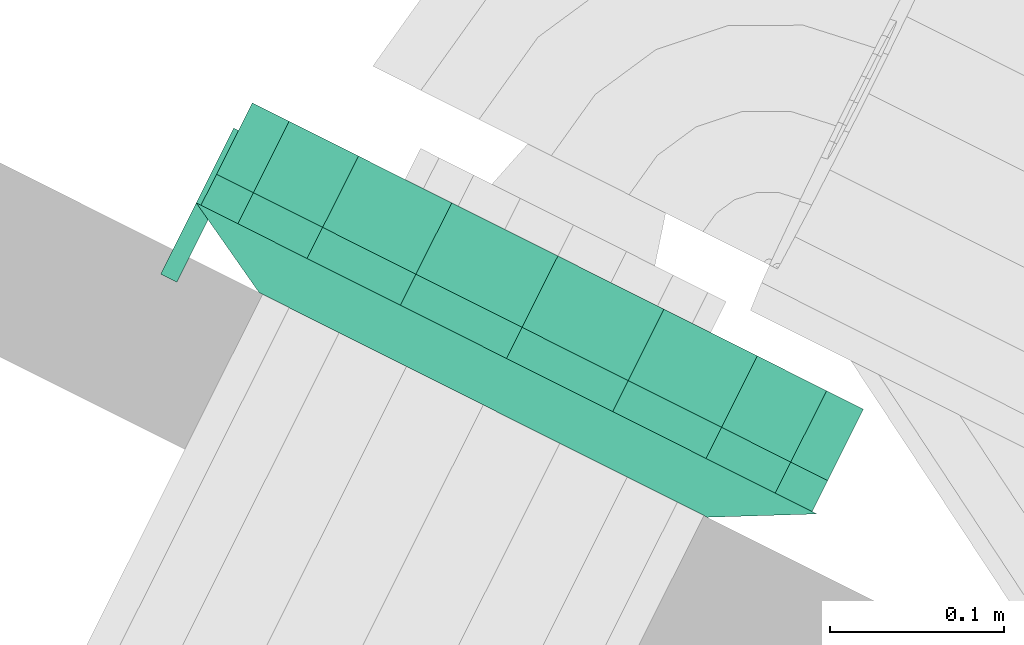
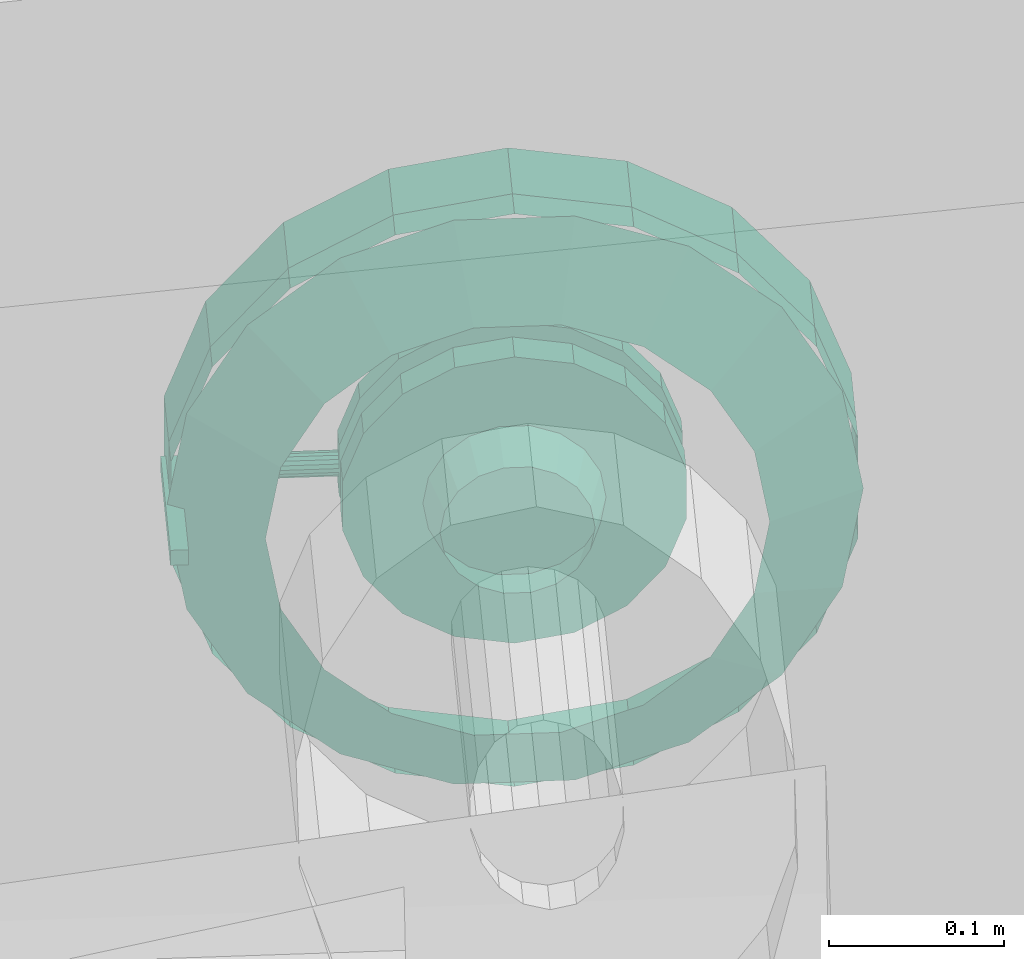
# One storey, part 160 of 206: 1 flow controller, 1 flow fitting.
"""IFC2X3 building model written with IfcOpenShell, lengths in metres."""

from ifc_helpers import new_model, si_unit, derived_unit, direction, frame, origin, place, context, subcontext, project, spatial, face_set, surface_model, source, transform, mapped, material, type_object, type_shapes, element, save


model = new_model("IFC2X3")

# Units and contexts
model_context = context("Model", 3, precision=5.2338327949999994e-05, world=origin(), true_north=direction((0.0, 1.0)))
body_context = subcontext(model_context, "Body", "Model", "MODEL_VIEW")
ifc_project = project(units=[si_unit("LENGTHUNIT", "METRE"), si_unit("AREAUNIT", "SQUARE_METRE"), si_unit("VOLUMEUNIT", "CUBIC_METRE"), si_unit("MASSUNIT", "GRAM", prefix="KILO"), si_unit("PLANEANGLEUNIT", "RADIAN"), derived_unit("THERMALTRANSMITTANCEUNIT", [(si_unit("MASSUNIT", "GRAM", prefix="KILO"), 1), (si_unit("THERMODYNAMICTEMPERATUREUNIT", "KELVIN"), -1), (si_unit("TIMEUNIT", "SECOND"), -3)])], contexts=[model_context])

# Site, building, storey
site_placement = place(None, frame((0.0, 0.0, 0.0), z_axis=(0.0, 0.0, 1.0), x_axis=(0.8939966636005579, -0.4480736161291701, 0.0)))
site = spatial("IfcSite", under=ifc_project, at=site_placement, Name="Default", CompositionType="ELEMENT")
building_placement = place(site_placement, origin())
building = spatial("IfcBuilding", under=site, at=building_placement, CompositionType="ELEMENT")
storey_placement = place(building_placement, origin())
storey = spatial("IfcBuildingStorey", under=building, at=storey_placement, Name="Erdgeschoss", CompositionType="ELEMENT", Elevation=0.0)

# Flow controller
ifc_material = material(Name="IfcSurfaceStyle #9317")
distribution_element_type_1 = type_object("IfcDistributionElementType", Name="Zwischenflanschklappe 338066:Zwischenflanschklappe 338066", material=ifc_material)
shared_shape_1 = source(origin(), body_context, "Body", "SurfaceModel", [
    surface_model("IfcFaceBasedSurfaceModel", [(30.950372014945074, 10.127308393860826, 2.3192500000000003), (30.950372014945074, 10.221458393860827, 2.3192500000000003), (30.950372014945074, 10.221458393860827, 2.30875), (30.950372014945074, 10.127308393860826, 2.30875), (30.93987201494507, 10.221458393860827, 2.30875), (30.93987201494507, 10.127308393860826, 2.30875), (30.93987201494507, 10.221458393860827, 2.3192500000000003), (30.93987201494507, 10.127308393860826, 2.3192500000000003), (31.139872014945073, 10.193208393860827, 2.2614999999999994), (31.12191595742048, 10.193208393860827, 2.2646661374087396), (31.12191595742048, 10.208541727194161, 2.2646661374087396), (31.139872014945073, 10.208541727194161, 2.2614999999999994), (31.10612566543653, 10.193208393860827, 2.273782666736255), (31.10612566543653, 10.208541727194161, 2.273782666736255), (31.09440568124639, 10.193208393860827, 2.2877499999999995), (31.09440568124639, 10.208541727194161, 2.2877499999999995), (31.088169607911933, 10.193208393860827, 2.304883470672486), (31.088169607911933, 10.208541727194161, 2.304883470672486), (31.088169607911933, 10.193208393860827, 2.323116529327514), (31.088169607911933, 10.208541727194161, 2.323116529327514), (31.09440568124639, 10.193208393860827, 2.34025), (31.09440568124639, 10.208541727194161, 2.34025), (31.10612566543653, 10.193208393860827, 2.354217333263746), (31.10612566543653, 10.208541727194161, 2.354217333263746), (31.12191595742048, 10.193208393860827, 2.363333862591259), (31.12191595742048, 10.208541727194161, 2.363333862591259), (31.139872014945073, 10.193208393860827, 2.3665), (31.139872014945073, 10.208541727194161, 2.3665), (31.157828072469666, 10.193208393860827, 2.3633338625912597), (31.157828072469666, 10.208541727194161, 2.3633338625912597), (31.173618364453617, 10.193208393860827, 2.354217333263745), (31.173618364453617, 10.208541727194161, 2.354217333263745), (31.185338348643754, 10.193208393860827, 2.340249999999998), (31.185338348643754, 10.208541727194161, 2.340249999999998), (31.191574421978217, 10.193208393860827, 2.3231165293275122), (31.191574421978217, 10.208541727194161, 2.3231165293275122), (31.191574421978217, 10.193208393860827, 2.304883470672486), (31.191574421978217, 10.208541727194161, 2.304883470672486), (31.185338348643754, 10.193208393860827, 2.2877500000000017), (31.185338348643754, 10.208541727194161, 2.2877500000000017), (31.173618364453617, 10.193208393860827, 2.2737826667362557), (31.173618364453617, 10.208541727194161, 2.2737826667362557), (31.157828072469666, 10.193208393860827, 2.264666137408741), (31.157828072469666, 10.208541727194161, 2.264666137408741), (31.139872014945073, 10.193208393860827, 2.314), (31.139872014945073, 10.208541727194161, 2.314), (31.139872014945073, 10.208541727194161, 2.214), (31.105670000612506, 10.208541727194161, 2.2200307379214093), (31.105670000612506, 10.223875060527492, 2.2200307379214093), (31.139872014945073, 10.223875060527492, 2.214), (31.075593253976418, 10.208541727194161, 2.2373955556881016), (31.075593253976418, 10.223875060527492, 2.2373955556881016), (31.05326947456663, 10.208541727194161, 2.264), (31.05326947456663, 10.223875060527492, 2.264), (31.04139123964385, 10.208541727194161, 2.296635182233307), (31.04139123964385, 10.223875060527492, 2.296635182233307), (31.04139123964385, 10.208541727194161, 2.3313648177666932), (31.04139123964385, 10.223875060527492, 2.3313648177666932), (31.05326947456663, 10.208541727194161, 2.364), (31.05326947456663, 10.223875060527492, 2.364), (31.075593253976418, 10.208541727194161, 2.3906044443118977), (31.075593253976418, 10.223875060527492, 2.3906044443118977), (31.105670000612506, 10.208541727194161, 2.4079692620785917), (31.105670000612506, 10.223875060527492, 2.4079692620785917), (31.139872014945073, 10.208541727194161, 2.414), (31.139872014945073, 10.223875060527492, 2.414), (31.17407402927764, 10.208541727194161, 2.407969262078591), (31.17407402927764, 10.223875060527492, 2.407969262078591), (31.204150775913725, 10.208541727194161, 2.3906044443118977), (31.204150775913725, 10.223875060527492, 2.3906044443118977), (31.22647455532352, 10.208541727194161, 2.3639999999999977), (31.22647455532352, 10.223875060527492, 2.3639999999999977), (31.238352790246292, 10.208541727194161, 2.331364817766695), (31.238352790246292, 10.223875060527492, 2.331364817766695), (31.238352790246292, 10.208541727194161, 2.296635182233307), (31.238352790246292, 10.223875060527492, 2.296635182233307), (31.22647455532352, 10.208541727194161, 2.264000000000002), (31.22647455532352, 10.223875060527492, 2.264000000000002), (31.204150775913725, 10.208541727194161, 2.2373955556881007), (31.204150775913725, 10.223875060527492, 2.2373955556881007), (31.17407402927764, 10.208541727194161, 2.2200307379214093), (31.17407402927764, 10.223875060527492, 2.2200307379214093), (31.139872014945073, 10.22387506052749, 2.314), (31.139872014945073, 10.223875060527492, 2.2614999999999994), (31.12191595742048, 10.223875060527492, 2.2646661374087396), (31.12191595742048, 10.239208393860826, 2.2646661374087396), (31.139872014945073, 10.239208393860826, 2.2614999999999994), (31.10612566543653, 10.223875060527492, 2.273782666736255), (31.10612566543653, 10.239208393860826, 2.273782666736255), (31.09440568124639, 10.223875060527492, 2.2877499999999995), (31.09440568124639, 10.239208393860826, 2.2877499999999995), (31.088169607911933, 10.223875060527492, 2.304883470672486), (31.088169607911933, 10.239208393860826, 2.304883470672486), (31.088169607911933, 10.223875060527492, 2.323116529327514), (31.088169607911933, 10.239208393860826, 2.323116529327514), (31.09440568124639, 10.223875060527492, 2.34025), (31.09440568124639, 10.239208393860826, 2.34025), (31.10612566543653, 10.223875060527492, 2.354217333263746), (31.10612566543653, 10.239208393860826, 2.354217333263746), (31.12191595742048, 10.223875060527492, 2.363333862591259), (31.12191595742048, 10.239208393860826, 2.363333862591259), (31.139872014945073, 10.223875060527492, 2.3665), (31.139872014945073, 10.239208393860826, 2.3665), (31.157828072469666, 10.223875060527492, 2.3633338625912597), (31.157828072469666, 10.239208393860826, 2.3633338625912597), (31.173618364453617, 10.223875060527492, 2.354217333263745), (31.173618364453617, 10.239208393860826, 2.354217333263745), (31.185338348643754, 10.223875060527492, 2.340249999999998), (31.185338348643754, 10.239208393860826, 2.340249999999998), (31.191574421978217, 10.223875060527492, 2.3231165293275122), (31.191574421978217, 10.239208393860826, 2.3231165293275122), (31.191574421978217, 10.223875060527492, 2.304883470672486), (31.191574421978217, 10.239208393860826, 2.304883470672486), (31.185338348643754, 10.223875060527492, 2.2877500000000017), (31.185338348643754, 10.239208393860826, 2.2877500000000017), (31.173618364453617, 10.223875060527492, 2.2737826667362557), (31.173618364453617, 10.239208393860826, 2.2737826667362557), (31.157828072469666, 10.223875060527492, 2.264666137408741), (31.157828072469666, 10.239208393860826, 2.264666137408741), (31.139872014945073, 10.239208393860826, 2.314), (31.139872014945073, 10.216208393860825, 2.3063333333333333), (31.139872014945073, 10.213586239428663, 2.306795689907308), (30.99512201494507, 10.213586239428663, 2.306795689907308), (30.99512201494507, 10.216208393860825, 2.3063333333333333), (31.139872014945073, 10.211280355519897, 2.3081269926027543), (30.99512201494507, 10.211280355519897, 2.3081269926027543), (31.139872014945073, 10.209568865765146, 2.3101666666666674), (30.99512201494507, 10.209568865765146, 2.3101666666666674), (31.139872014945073, 10.208658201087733, 2.3126686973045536), (30.99512201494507, 10.208658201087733, 2.3126686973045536), (31.139872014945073, 10.208658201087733, 2.3153313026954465), (30.99512201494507, 10.208658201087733, 2.3153313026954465), (31.139872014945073, 10.209568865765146, 2.3178333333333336), (30.99512201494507, 10.209568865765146, 2.3178333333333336), (31.139872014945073, 10.211280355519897, 2.3198730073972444), (30.99512201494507, 10.211280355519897, 2.3198730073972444), (31.139872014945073, 10.213586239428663, 2.3212043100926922), (30.99512201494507, 10.213586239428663, 2.3212043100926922), (31.139872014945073, 10.216208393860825, 2.3216666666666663), (30.99512201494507, 10.216208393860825, 2.3216666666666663), (31.139872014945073, 10.21883054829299, 2.3212043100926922), (30.99512201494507, 10.21883054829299, 2.3212043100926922), (31.139872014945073, 10.221136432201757, 2.319873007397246), (30.99512201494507, 10.221136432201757, 2.319873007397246), (31.139872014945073, 10.222847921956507, 2.3178333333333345), (30.99512201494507, 10.222847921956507, 2.3178333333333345), (31.139872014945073, 10.22375858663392, 2.3153313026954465), (30.99512201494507, 10.22375858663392, 2.3153313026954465), (31.139872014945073, 10.22375858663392, 2.3126686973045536), (30.99512201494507, 10.22375858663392, 2.3126686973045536), (31.139872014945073, 10.222847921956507, 2.3101666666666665), (30.99512201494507, 10.222847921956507, 2.3101666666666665), (31.139872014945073, 10.221136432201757, 2.308126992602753), (30.99512201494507, 10.221136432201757, 2.308126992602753), (31.139872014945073, 10.21883054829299, 2.306795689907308), (30.99512201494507, 10.21883054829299, 2.306795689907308), (31.139872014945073, 10.216208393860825, 2.314), (30.99512201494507, 10.216208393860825, 2.314), (30.99512201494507, 10.216208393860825, 2.309555), (30.99512201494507, 10.213065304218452, 2.310856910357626), (30.950372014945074, 10.213065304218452, 2.310856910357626), (30.950372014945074, 10.216208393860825, 2.309555), (30.99512201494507, 10.211763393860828, 2.314000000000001), (30.950372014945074, 10.211763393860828, 2.314000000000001), (30.99512201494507, 10.213065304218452, 2.3171430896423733), (30.950372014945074, 10.213065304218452, 2.3171430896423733), (30.99512201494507, 10.216208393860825, 2.318445), (30.950372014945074, 10.216208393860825, 2.318445), (30.99512201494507, 10.219351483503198, 2.317143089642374), (30.950372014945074, 10.219351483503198, 2.317143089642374), (30.99512201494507, 10.220653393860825, 2.314), (30.950372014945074, 10.220653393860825, 2.314), (30.99512201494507, 10.219351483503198, 2.310856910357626), (30.950372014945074, 10.219351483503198, 2.310856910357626), (30.950372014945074, 10.216208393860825, 2.314), (31.139872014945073, 10.193208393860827, 2.114), (31.071467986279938, 10.193208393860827, 2.1260614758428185), (31.071467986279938, 10.239208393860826, 2.1260614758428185), (31.139872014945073, 10.239208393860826, 2.114), (31.011314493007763, 10.193208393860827, 2.1607911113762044), (31.011314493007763, 10.239208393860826, 2.1607911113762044), (30.966666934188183, 10.193208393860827, 2.214), (30.966666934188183, 10.239208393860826, 2.214), (30.94291046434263, 10.193208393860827, 2.279270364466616), (30.94291046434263, 10.239208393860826, 2.279270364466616), (30.94291046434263, 10.193208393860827, 2.3487296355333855), (30.94291046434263, 10.239208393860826, 2.3487296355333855), (30.966666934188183, 10.193208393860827, 2.413999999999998), (30.966666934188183, 10.239208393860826, 2.413999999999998), (31.011314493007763, 10.193208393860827, 2.4672088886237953), (31.011314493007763, 10.239208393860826, 2.4672088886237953), (31.071467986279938, 10.193208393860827, 2.5019385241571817), (31.071467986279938, 10.239208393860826, 2.5019385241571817), (31.139872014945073, 10.193208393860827, 2.5140000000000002), (31.139872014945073, 10.239208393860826, 2.5140000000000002), (31.208276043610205, 10.193208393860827, 2.501938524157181), (31.208276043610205, 10.239208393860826, 2.501938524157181), (31.26842953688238, 10.193208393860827, 2.4672088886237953), (31.26842953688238, 10.239208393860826, 2.4672088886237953), (31.313077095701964, 10.193208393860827, 2.413999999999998), (31.313077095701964, 10.239208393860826, 2.413999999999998), (31.336833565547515, 10.193208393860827, 2.3487296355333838), (31.336833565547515, 10.239208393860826, 2.3487296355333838), (31.336833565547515, 10.193208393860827, 2.279270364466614), (31.336833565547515, 10.239208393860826, 2.279270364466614), (31.313077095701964, 10.193208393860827, 2.2140000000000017), (31.313077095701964, 10.239208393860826, 2.2140000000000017), (31.26842953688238, 10.193208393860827, 2.160791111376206), (31.26842953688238, 10.239208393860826, 2.160791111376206), (31.208276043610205, 10.193208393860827, 2.1260614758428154), (31.208276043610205, 10.239208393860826, 2.1260614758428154)], [face_set([[[0, 1, 2, 3]], [[3, 2, 4, 5]], [[5, 4, 6, 7]], [[7, 6, 1, 0]], [[0, 3, 5, 7]], [[6, 4, 2, 1]], [[8, 9, 10, 11]], [[9, 12, 13, 10]], [[12, 14, 15, 13]], [[14, 16, 17, 15]], [[16, 18, 19, 17]], [[18, 20, 21, 19]], [[20, 22, 23, 21]], [[22, 24, 25, 23]], [[24, 26, 27, 25]], [[26, 28, 29, 27]], [[28, 30, 31, 29]], [[30, 32, 33, 31]], [[32, 34, 35, 33]], [[34, 36, 37, 35]], [[36, 38, 39, 37]], [[38, 40, 41, 39]], [[40, 42, 43, 41]], [[42, 8, 11, 43]], [[44, 9, 8]], [[44, 12, 9]], [[44, 14, 12]], [[44, 16, 14]], [[44, 18, 16]], [[44, 20, 18]], [[44, 22, 20]], [[44, 24, 22]], [[44, 26, 24]], [[44, 28, 26]], [[44, 30, 28]], [[44, 32, 30]], [[44, 34, 32]], [[44, 36, 34]], [[44, 38, 36]], [[44, 40, 38]], [[44, 42, 40]], [[44, 8, 42]], [[45, 43, 11]], [[45, 41, 43]], [[45, 39, 41]], [[45, 37, 39]], [[45, 35, 37]], [[45, 33, 35]], [[45, 31, 33]], [[45, 29, 31]], [[45, 27, 29]], [[45, 25, 27]], [[45, 23, 25]], [[45, 21, 23]], [[45, 19, 21]], [[45, 17, 19]], [[45, 15, 17]], [[45, 13, 15]], [[45, 10, 13]], [[45, 11, 10]], [[46, 47, 48, 49]], [[47, 50, 51, 48]], [[50, 52, 53, 51]], [[52, 54, 55, 53]], [[54, 56, 57, 55]], [[56, 58, 59, 57]], [[58, 60, 61, 59]], [[60, 62, 63, 61]], [[62, 64, 65, 63]], [[64, 66, 67, 65]], [[66, 68, 69, 67]], [[68, 70, 71, 69]], [[70, 72, 73, 71]], [[72, 74, 75, 73]], [[74, 76, 77, 75]], [[76, 78, 79, 77]], [[78, 80, 81, 79]], [[80, 46, 49, 81]], [[45, 47, 46]], [[45, 50, 47]], [[45, 52, 50]], [[45, 54, 52]], [[45, 56, 54]], [[45, 58, 56]], [[45, 60, 58]], [[45, 62, 60]], [[45, 64, 62]], [[45, 66, 64]], [[45, 68, 66]], [[45, 70, 68]], [[45, 72, 70]], [[45, 74, 72]], [[45, 76, 74]], [[45, 78, 76]], [[45, 80, 78]], [[45, 46, 80]], [[82, 81, 49]], [[82, 79, 81]], [[82, 77, 79]], [[82, 75, 77]], [[82, 73, 75]], [[82, 71, 73]], [[82, 69, 71]], [[82, 67, 69]], [[82, 65, 67]], [[82, 63, 65]], [[82, 61, 63]], [[82, 59, 61]], [[82, 57, 59]], [[82, 55, 57]], [[82, 53, 55]], [[82, 51, 53]], [[82, 48, 51]], [[82, 49, 48]], [[83, 84, 85, 86]], [[84, 87, 88, 85]], [[87, 89, 90, 88]], [[89, 91, 92, 90]], [[91, 93, 94, 92]], [[93, 95, 96, 94]], [[95, 97, 98, 96]], [[97, 99, 100, 98]], [[99, 101, 102, 100]], [[101, 103, 104, 102]], [[103, 105, 106, 104]], [[105, 107, 108, 106]], [[107, 109, 110, 108]], [[109, 111, 112, 110]], [[111, 113, 114, 112]], [[113, 115, 116, 114]], [[115, 117, 118, 116]], [[117, 83, 86, 118]], [[82, 84, 83]], [[82, 87, 84]], [[82, 89, 87]], [[82, 91, 89]], [[82, 93, 91]], [[82, 95, 93]], [[82, 97, 95]], [[82, 99, 97]], [[82, 101, 99]], [[82, 103, 101]], [[82, 105, 103]], [[82, 107, 105]], [[82, 109, 107]], [[82, 111, 109]], [[82, 113, 111]], [[82, 115, 113]], [[82, 117, 115]], [[82, 83, 117]], [[119, 118, 86]], [[119, 116, 118]], [[119, 114, 116]], [[119, 112, 114]], [[119, 110, 112]], [[119, 108, 110]], [[119, 106, 108]], [[119, 104, 106]], [[119, 102, 104]], [[119, 100, 102]], [[119, 98, 100]], [[119, 96, 98]], [[119, 94, 96]], [[119, 92, 94]], [[119, 90, 92]], [[119, 88, 90]], [[119, 85, 88]], [[119, 86, 85]], [[120, 121, 122, 123]], [[121, 124, 125, 122]], [[124, 126, 127, 125]], [[126, 128, 129, 127]], [[128, 130, 131, 129]], [[130, 132, 133, 131]], [[132, 134, 135, 133]], [[134, 136, 137, 135]], [[136, 138, 139, 137]], [[138, 140, 141, 139]], [[140, 142, 143, 141]], [[142, 144, 145, 143]], [[144, 146, 147, 145]], [[146, 148, 149, 147]], [[148, 150, 151, 149]], [[150, 152, 153, 151]], [[152, 154, 155, 153]], [[154, 120, 123, 155]], [[156, 121, 120]], [[156, 124, 121]], [[156, 126, 124]], [[156, 128, 126]], [[156, 130, 128]], [[156, 132, 130]], [[156, 134, 132]], [[156, 136, 134]], [[156, 138, 136]], [[156, 140, 138]], [[156, 142, 140]], [[156, 144, 142]], [[156, 146, 144]], [[156, 148, 146]], [[156, 150, 148]], [[156, 152, 150]], [[156, 154, 152]], [[156, 120, 154]], [[157, 155, 123]], [[157, 153, 155]], [[157, 151, 153]], [[157, 149, 151]], [[157, 147, 149]], [[157, 145, 147]], [[157, 143, 145]], [[157, 141, 143]], [[157, 139, 141]], [[157, 137, 139]], [[157, 135, 137]], [[157, 133, 135]], [[157, 131, 133]], [[157, 129, 131]], [[157, 127, 129]], [[157, 125, 127]], [[157, 122, 125]], [[157, 123, 122]], [[158, 159, 160, 161]], [[159, 162, 163, 160]], [[162, 164, 165, 163]], [[164, 166, 167, 165]], [[166, 168, 169, 167]], [[168, 170, 171, 169]], [[170, 172, 173, 171]], [[172, 158, 161, 173]], [[174, 173, 161]], [[174, 171, 173]], [[174, 169, 171]], [[174, 167, 169]], [[174, 165, 167]], [[174, 163, 165]], [[174, 160, 163]], [[174, 161, 160]], [[175, 176, 177, 178]], [[176, 179, 180, 177]], [[179, 181, 182, 180]], [[181, 183, 184, 182]], [[183, 185, 186, 184]], [[185, 187, 188, 186]], [[187, 189, 190, 188]], [[189, 191, 192, 190]], [[191, 193, 194, 192]], [[193, 195, 196, 194]], [[195, 197, 198, 196]], [[197, 199, 200, 198]], [[199, 201, 202, 200]], [[201, 203, 204, 202]], [[203, 205, 206, 204]], [[205, 207, 208, 206]], [[207, 209, 210, 208]], [[209, 175, 178, 210]]])]),
])
type_shapes(distribution_element_type_1, [shared_shape_1])
flow_controller_placement = place(storey_placement, origin())
element("IfcFlowController", 1, at=flow_controller_placement, inside=storey, type_object=distribution_element_type_1, material=ifc_material, Name="Zwischenflanschklappe", ObjectType="Zwischenflanschklappe", context=body_context, shape_type="MappedRepresentation", body=[
    mapped(shared_shape_1, transform((0.0, 0.0, 0.0), scale=1.0)),
])

# Flow fitting
distribution_element_type_2 = type_object("IfcDistributionElementType", Name="Flansch 339794:Flansch 339794", material=ifc_material)
shared_shape_2 = source(origin(), body_context, "Body", "SurfaceModel", [
    surface_model("IfcFaceBasedSurfaceModel", [(31.18432201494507, 10.143208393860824, 2.3139999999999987), (31.181641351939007, 10.143208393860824, 2.2987972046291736), (31.18920587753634, 10.173208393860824, 2.296043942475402), (31.19237201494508, 10.173208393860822, 2.3139999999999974), (31.173922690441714, 10.14320839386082, 2.2854280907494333), (31.18008934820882, 10.173208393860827, 2.2802536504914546), (31.162097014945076, 10.143208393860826, 2.2755051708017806), (31.16612201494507, 10.173208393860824, 2.2685336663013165), (31.14759067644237, 10.143208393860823, 2.270225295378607), (31.148988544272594, 10.173208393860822, 2.2622975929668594), (31.132153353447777, 10.143208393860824, 2.2702252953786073), (31.13075548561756, 10.173208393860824, 2.262297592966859), (31.117647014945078, 10.143208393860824, 2.2755051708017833), (31.113622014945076, 10.173208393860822, 2.2685336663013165), (31.105821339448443, 10.143208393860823, 2.285428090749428), (31.09965468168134, 10.173208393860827, 2.2802536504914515), (31.09810267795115, 10.143208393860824, 2.2987972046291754), (31.090538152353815, 10.17320839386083, 2.296043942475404), (31.095422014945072, 10.14320839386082, 2.313999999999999), (31.08737201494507, 10.173208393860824, 2.313999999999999), (31.098102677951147, 10.143208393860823, 2.3292027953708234), (31.09053815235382, 10.17320839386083, 2.3319560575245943), (31.10582133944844, 10.143208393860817, 2.342571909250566), (31.099654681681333, 10.173208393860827, 2.347746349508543), (31.117647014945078, 10.143208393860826, 2.352494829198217), (31.113622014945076, 10.173208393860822, 2.359466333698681), (31.132153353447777, 10.143208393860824, 2.3577747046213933), (31.130755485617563, 10.173208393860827, 2.365702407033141), (31.14759067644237, 10.143208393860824, 2.357774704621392), (31.148988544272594, 10.173208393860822, 2.3657024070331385), (31.162097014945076, 10.143208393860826, 2.352494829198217), (31.166122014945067, 10.173208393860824, 2.3594663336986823), (31.173922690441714, 10.143208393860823, 2.3425719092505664), (31.180089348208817, 10.173208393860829, 2.3477463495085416), (31.181641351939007, 10.143208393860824, 2.329202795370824), (31.189205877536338, 10.173208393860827, 2.331956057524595), (31.139872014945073, 10.173208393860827, 2.214000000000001), (31.105670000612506, 10.17320839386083, 2.2200307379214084), (31.105670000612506, 10.193208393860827, 2.220030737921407), (31.139872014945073, 10.193208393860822, 2.2139999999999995), (31.075593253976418, 10.173208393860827, 2.2373955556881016), (31.075593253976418, 10.193208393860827, 2.2373955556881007), (31.053269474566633, 10.173208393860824, 2.263999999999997), (31.053269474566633, 10.193208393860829, 2.263999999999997), (31.04139123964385, 10.173208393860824, 2.2966351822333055), (31.04139123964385, 10.193208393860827, 2.296635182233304), (31.04139123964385, 10.173208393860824, 2.331364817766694), (31.04139123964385, 10.193208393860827, 2.3313648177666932), (31.05326947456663, 10.173208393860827, 2.364), (31.05326947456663, 10.19320839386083, 2.363999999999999), (31.075593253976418, 10.173208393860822, 2.3906044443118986), (31.075593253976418, 10.193208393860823, 2.390604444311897), (31.105670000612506, 10.173208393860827, 2.40796926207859), (31.10567000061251, 10.193208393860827, 2.407969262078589), (31.139872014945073, 10.173208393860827, 2.414), (31.139872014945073, 10.193208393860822, 2.4139999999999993), (31.17407402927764, 10.173208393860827, 2.4079692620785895), (31.174074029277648, 10.193208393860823, 2.4079692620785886), (31.204150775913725, 10.173208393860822, 2.3906044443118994), (31.204150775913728, 10.193208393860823, 2.3906044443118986), (31.226474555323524, 10.17320839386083, 2.3640000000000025), (31.22647455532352, 10.193208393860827, 2.364000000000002), (31.23835279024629, 10.173208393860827, 2.33136481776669), (31.238352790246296, 10.193208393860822, 2.3313648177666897), (31.238352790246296, 10.173208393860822, 2.296635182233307), (31.238352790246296, 10.193208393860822, 2.2966351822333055), (31.226474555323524, 10.173208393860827, 2.263999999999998), (31.226474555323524, 10.193208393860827, 2.2639999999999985), (31.204150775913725, 10.173208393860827, 2.2373955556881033), (31.204150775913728, 10.193208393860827, 2.237395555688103), (31.174074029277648, 10.173208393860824, 2.220030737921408), (31.174074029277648, 10.193208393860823, 2.220030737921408), (31.139872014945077, 10.173208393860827, 2.314000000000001), (31.284322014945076, 10.143208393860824, 2.313999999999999), (31.275610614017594, 10.143208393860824, 2.264595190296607), (31.327810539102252, 10.173208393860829, 2.245595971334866), (31.339872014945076, 10.173208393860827, 2.3139999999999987), (31.25052713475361, 10.143208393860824, 2.2211493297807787), (31.293080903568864, 10.173208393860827, 2.1854424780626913), (31.212097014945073, 10.143208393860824, 2.1889026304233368), (31.239872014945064, 10.173208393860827, 2.1407949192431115), (31.164955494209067, 10.143208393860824, 2.1717445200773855), (31.174601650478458, 10.173208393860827, 2.1170384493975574), (31.11478853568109, 10.143208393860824, 2.1717445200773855), (31.10514237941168, 10.173208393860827, 2.1170384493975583), (31.06764701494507, 10.143208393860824, 2.1889026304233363), (31.03987201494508, 10.173208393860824, 2.1407949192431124), (31.029216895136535, 10.143208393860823, 2.221149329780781), (30.98666312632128, 10.173208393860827, 2.1854424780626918), (31.004133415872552, 10.143208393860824, 2.2645951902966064), (30.951933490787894, 10.173208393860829, 2.245595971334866), (30.99542201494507, 10.143208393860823, 2.3139999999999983), (30.939872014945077, 10.173208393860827, 2.313999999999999), (31.004133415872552, 10.143208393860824, 2.363404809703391), (30.95193349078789, 10.173208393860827, 2.3824040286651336), (31.02921689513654, 10.143208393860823, 2.4068506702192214), (30.98666312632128, 10.173208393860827, 2.442557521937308), (31.067647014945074, 10.143208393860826, 2.439097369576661), (31.039872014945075, 10.173208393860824, 2.487205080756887), (31.114788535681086, 10.143208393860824, 2.456255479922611), (31.10514237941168, 10.173208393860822, 2.5109615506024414), (31.164955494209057, 10.14320839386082, 2.4562554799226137), (31.17460165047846, 10.173208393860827, 2.5109615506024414), (31.212097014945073, 10.143208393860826, 2.4390973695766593), (31.239872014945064, 10.173208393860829, 2.487205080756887), (31.25052713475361, 10.143208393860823, 2.4068506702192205), (31.29308090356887, 10.17320839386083, 2.4425575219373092), (31.275610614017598, 10.143208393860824, 2.363404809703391), (31.327810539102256, 10.173208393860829, 2.3824040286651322), (31.139872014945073, 10.173208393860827, 2.1140000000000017), (31.071467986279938, 10.173208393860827, 2.126061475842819), (31.071467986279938, 10.193208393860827, 2.1260614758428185), (31.139872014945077, 10.193208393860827, 2.1140000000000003), (31.011314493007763, 10.173208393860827, 2.1607911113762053), (31.011314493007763, 10.19320839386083, 2.160791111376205), (30.966666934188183, 10.173208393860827, 2.214), (30.966666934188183, 10.193208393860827, 2.213999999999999), (30.94291046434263, 10.17320839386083, 2.2792703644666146), (30.94291046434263, 10.193208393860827, 2.2792703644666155), (30.942910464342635, 10.17320839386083, 2.3487296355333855), (30.94291046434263, 10.19320839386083, 2.3487296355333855), (30.96666693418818, 10.17320839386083, 2.414), (30.96666693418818, 10.193208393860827, 2.4139999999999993), (31.011314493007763, 10.173208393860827, 2.467208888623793), (31.011314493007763, 10.19320839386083, 2.467208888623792), (31.071467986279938, 10.173208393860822, 2.50193852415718), (31.071467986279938, 10.19320839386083, 2.5019385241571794), (31.139872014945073, 10.173208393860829, 2.5140000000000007), (31.139872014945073, 10.193208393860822, 2.514), (31.20827604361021, 10.17320839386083, 2.501938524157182), (31.208276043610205, 10.193208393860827, 2.5019385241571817), (31.26842953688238, 10.173208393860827, 2.467208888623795), (31.26842953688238, 10.193208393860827, 2.4672088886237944), (31.31307709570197, 10.173208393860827, 2.4140000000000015), (31.31307709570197, 10.193208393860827, 2.4140000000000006), (31.336833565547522, 10.173208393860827, 2.3487296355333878), (31.336833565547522, 10.193208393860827, 2.3487296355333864), (31.336833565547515, 10.173208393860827, 2.2792703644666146), (31.33683356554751, 10.193208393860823, 2.2792703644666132), (31.31307709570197, 10.173208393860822, 2.2139999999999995), (31.31307709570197, 10.193208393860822, 2.213999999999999), (31.26842953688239, 10.173208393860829, 2.160791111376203), (31.268429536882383, 10.193208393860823, 2.1607911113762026), (31.20827604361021, 10.173208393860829, 2.1260614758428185), (31.208276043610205, 10.193208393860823, 2.126061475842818)], [face_set([[[0, 1, 2, 3]], [[1, 4, 5, 2]], [[4, 6, 7, 5]], [[6, 8, 9, 7]], [[8, 10, 11, 9]], [[10, 12, 13, 11]], [[12, 14, 15, 13]], [[14, 16, 17, 15]], [[16, 18, 19, 17]], [[18, 20, 21, 19]], [[20, 22, 23, 21]], [[22, 24, 25, 23]], [[24, 26, 27, 25]], [[26, 28, 29, 27]], [[28, 30, 31, 29]], [[30, 32, 33, 31]], [[32, 34, 35, 33]], [[34, 0, 3, 35]], [[36, 37, 38, 39]], [[37, 40, 41, 38]], [[40, 42, 43, 41]], [[42, 44, 45, 43]], [[44, 46, 47, 45]], [[46, 48, 49, 47]], [[48, 50, 51, 49]], [[50, 52, 53, 51]], [[52, 54, 55, 53]], [[54, 56, 57, 55]], [[56, 58, 59, 57]], [[58, 60, 61, 59]], [[60, 62, 63, 61]], [[62, 64, 65, 63]], [[64, 66, 67, 65]], [[66, 68, 69, 67]], [[68, 70, 71, 69]], [[70, 36, 39, 71]], [[72, 37, 36]], [[72, 40, 37]], [[72, 42, 40]], [[72, 44, 42]], [[72, 46, 44]], [[72, 48, 46]], [[72, 50, 48]], [[72, 52, 50]], [[72, 54, 52]], [[72, 56, 54]], [[72, 58, 56]], [[72, 60, 58]], [[72, 62, 60]], [[72, 64, 62]], [[72, 66, 64]], [[72, 68, 66]], [[72, 70, 68]], [[72, 36, 70]], [[73, 74, 75, 76]], [[74, 77, 78, 75]], [[77, 79, 80, 78]], [[79, 81, 82, 80]], [[81, 83, 84, 82]], [[83, 85, 86, 84]], [[85, 87, 88, 86]], [[87, 89, 90, 88]], [[89, 91, 92, 90]], [[91, 93, 94, 92]], [[93, 95, 96, 94]], [[95, 97, 98, 96]], [[97, 99, 100, 98]], [[99, 101, 102, 100]], [[101, 103, 104, 102]], [[103, 105, 106, 104]], [[105, 107, 108, 106]], [[107, 73, 76, 108]], [[109, 110, 111, 112]], [[110, 113, 114, 111]], [[113, 115, 116, 114]], [[115, 117, 118, 116]], [[117, 119, 120, 118]], [[119, 121, 122, 120]], [[121, 123, 124, 122]], [[123, 125, 126, 124]], [[125, 127, 128, 126]], [[127, 129, 130, 128]], [[129, 131, 132, 130]], [[131, 133, 134, 132]], [[133, 135, 136, 134]], [[135, 137, 138, 136]], [[137, 139, 140, 138]], [[139, 141, 142, 140]], [[141, 143, 144, 142]], [[143, 109, 112, 144]]])]),
])
type_shapes(distribution_element_type_2, [shared_shape_2])
flow_fitting_placement = place(storey_placement, origin())
element("IfcFlowFitting", 2, at=flow_fitting_placement, inside=storey, type_object=distribution_element_type_2, material=ifc_material, Name="Flansch", ObjectType="Flansch", context=body_context, shape_type="MappedRepresentation", body=[
    mapped(shared_shape_2, transform((0.0, 0.0, 0.0), scale=1.0)),
])

save(model, "model.ifc")
